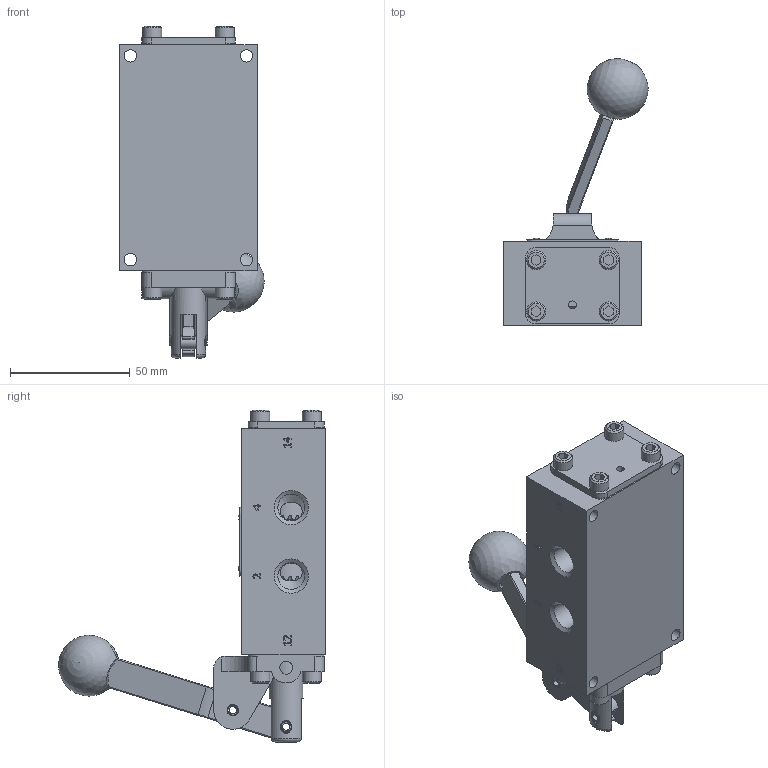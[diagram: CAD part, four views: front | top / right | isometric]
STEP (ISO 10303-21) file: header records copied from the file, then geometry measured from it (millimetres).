
FILE_DESCRIPTION(/* description */ (''),/* implementation_level */ '2;1');
FILE_NAME(/* name */ 'D:\Engineering\Product\valves\Assembly\lever\HE\stp\HE2BLHJ.stp',/* time_stamp */ '2022-05-26T22:00:15-04:00',/* author */ ('RMcKenna'),/* organization */ (''),/* preprocessor_version */ 'ST-DEVELOPER v18.1',/* originating_system */ 'Autodesk Inventor 2021',/* authorisation */ '');
FILE_SCHEMA (('AUTOMOTIVE_DESIGN { 1 0 10303 214 3 1 1 }'));
Length unit declared in the file: centimetre
Products named in the file (1): Part35
Bounding box: 60.12 x 111.21 x 138.33 mm (x, y, z)
Volume: 194850.8 mm3; surface area: 60424.9 mm2
Topology: 1 solids, 30 shells, 1169 faces, 2891 edges, 1850 vertices
Faces by surface type: plane 512, cone 239, cylinder 216, bspline 106, torus 93, sphere 3
Full cylindrical faces by diameter (mm): 2.07 x2, 2.261 x2, 2.778 x2, 3.175 x3, 3.683 x10, 3.912 x3, 4.75 x2, 4.763 x2, 4.826 x8, 4.978 x4, 5.055 x1, 5.156 x12, 5.41 x1, 7.798 x1, 7.938 x8, 8.153 x1, 9.922 x1, 11.113 x6, 11.303 x2, 14.275 x1, 14.986 x1, 18.618 x2, 18.745 x12, 19.177 x2, 23.825 x7
Entity records: 39339 total; most frequent: CARTESIAN_POINT 11027, ORIENTED_EDGE 5744, DIRECTION 5350, EDGE_CURVE 2872, AXIS2_PLACEMENT_3D 1936, VERTEX_POINT 1850, LINE 1478, VECTOR 1478
